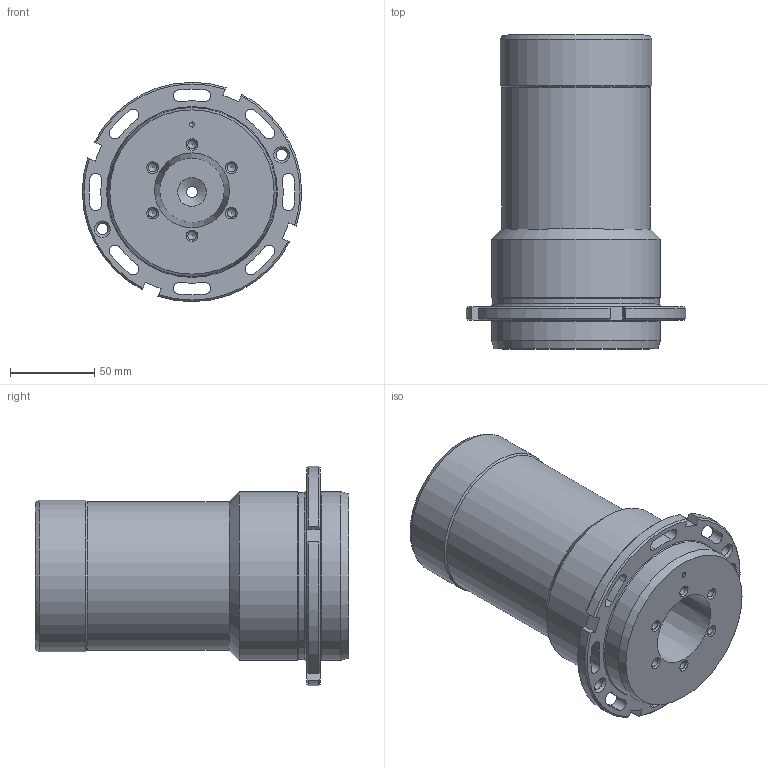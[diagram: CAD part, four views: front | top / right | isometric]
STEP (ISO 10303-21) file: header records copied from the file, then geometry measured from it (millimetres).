
FILE_DESCRIPTION(('STEP AP203'), '1');
FILE_NAME('04.067.03.009 矧膼錪', '', ('UNSPECIFIED'), ('UNSPECIFIED'), 'ASCON STEP Converter 1.6', 'ASCON Math Kernel', '');
FILE_SCHEMA(('CONFIG_CONTROL_DESIGN'));
Length unit declared in the file: millimetre
Products named in the file (1): 04.067.03.009
Bounding box: 130 x 186 x 130 mm (x, y, z)
Volume: 1079781.3 mm3; surface area: 101946.8 mm2
Topology: 1 solids, 1 shells, 106 faces, 271 edges, 171 vertices
Faces by surface type: cylinder 53, cone 32, plane 18, torus 3
Full cylindrical faces by diameter (mm): 3 x1, 4.917 x6, 6.647 x3, 10 x1, 38.2 x1, 88 x1, 90 x1, 99 x1, 100 x2
Entity records: 3932 total; most frequent: CARTESIAN_POINT 571, DIRECTION 550, ORIENTED_EDGE 440, AXIS2_PLACEMENT_3D 239, EDGE_CURVE 220, EDGE_LOOP 176, VERTEX_POINT 164, CIRCLE 132
